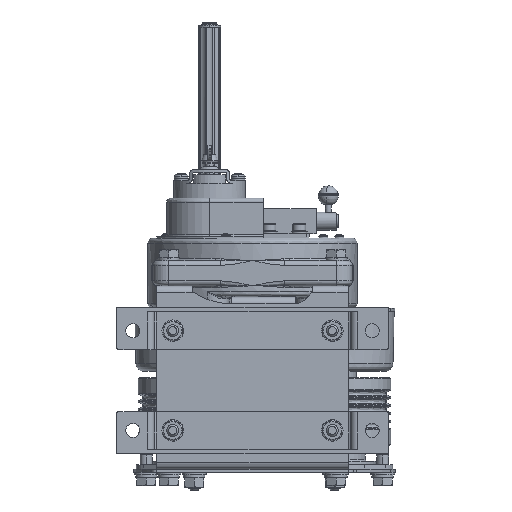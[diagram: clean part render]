
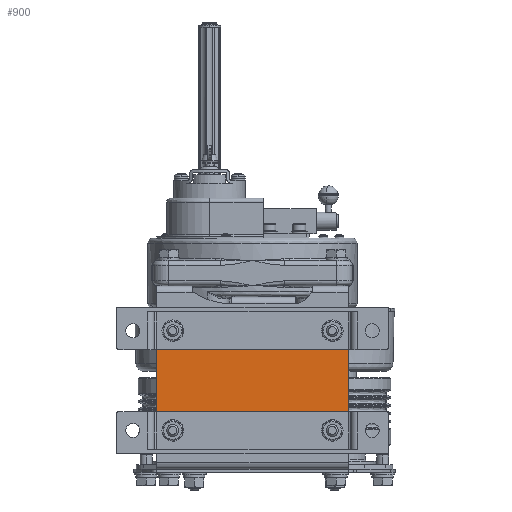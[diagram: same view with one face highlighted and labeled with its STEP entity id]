
A CAD part, front view. The second image highlights one B-rep face of the part: STEP entity #900.
In plain terms, the highlighted planar face has unit normal (0, -1, 0).
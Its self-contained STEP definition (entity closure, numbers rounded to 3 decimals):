
#900=ADVANCED_FACE('',(#9268),#9267,.T.);
#9267=PLANE('',#29229);
#9268=FACE_OUTER_BOUND('',#29230,.T.);
#29226=CARTESIAN_POINT('',(1448.16,-105.5,-280.744));
#29227=DIRECTION('',(0.,-1.,0.));
#29228=DIRECTION('',(0.,0.,1.));
#29229=AXIS2_PLACEMENT_3D('',#29226,#29227,#29228);
#29230=EDGE_LOOP('',(#43561,#43562,#43563,#43564));
#43561=ORIENTED_EDGE('',*,*,#52642,.F.);
#43562=ORIENTED_EDGE('',*,*,#52879,.T.);
#43563=ORIENTED_EDGE('',*,*,#52568,.T.);
#43564=ORIENTED_EDGE('',*,*,#52880,.F.);
#52568=EDGE_CURVE('',#69699,#69819,#69826,.T.);
#52642=EDGE_CURVE('',#70206,#70320,#70321,.T.);
#52879=EDGE_CURVE('',#70206,#69699,#71891,.T.);
#52880=EDGE_CURVE('',#70320,#69819,#71897,.T.);
#69699=VERTEX_POINT('',#100741);
#69819=VERTEX_POINT('',#100814);
#69826=LINE('',#100818,#100819);
#70206=VERTEX_POINT('',#101051);
#70320=VERTEX_POINT('',#101121);
#70321=LINE('',#101122,#101123);
#71891=LINE('',#102152,#102153);
#71897=LINE('',#102155,#102156);
#100741=CARTESIAN_POINT('',(1438.16,-105.5,-212.544));
#100814=CARTESIAN_POINT('',(1246.16,-105.5,-212.544));
#100818=CARTESIAN_POINT('',(1438.16,-105.5,-212.544));
#100819=VECTOR('',#100820,192.);
#100820=DIRECTION('',(-1.,0.,0.));
#101051=CARTESIAN_POINT('',(1438.16,-105.5,-274.544));
#101121=CARTESIAN_POINT('',(1246.16,-105.5,-274.544));
#101122=CARTESIAN_POINT('',(1438.16,-105.5,-274.544));
#101123=VECTOR('',#101124,192.);
#101124=DIRECTION('',(-1.,0.,0.));
#102152=CARTESIAN_POINT('',(1438.16,-105.5,-274.544));
#102153=VECTOR('',#102154,62.);
#102154=DIRECTION('',(0.,0.,1.));
#102155=CARTESIAN_POINT('',(1246.16,-105.5,-274.544));
#102156=VECTOR('',#102157,62.);
#102157=DIRECTION('',(0.,0.,1.));
